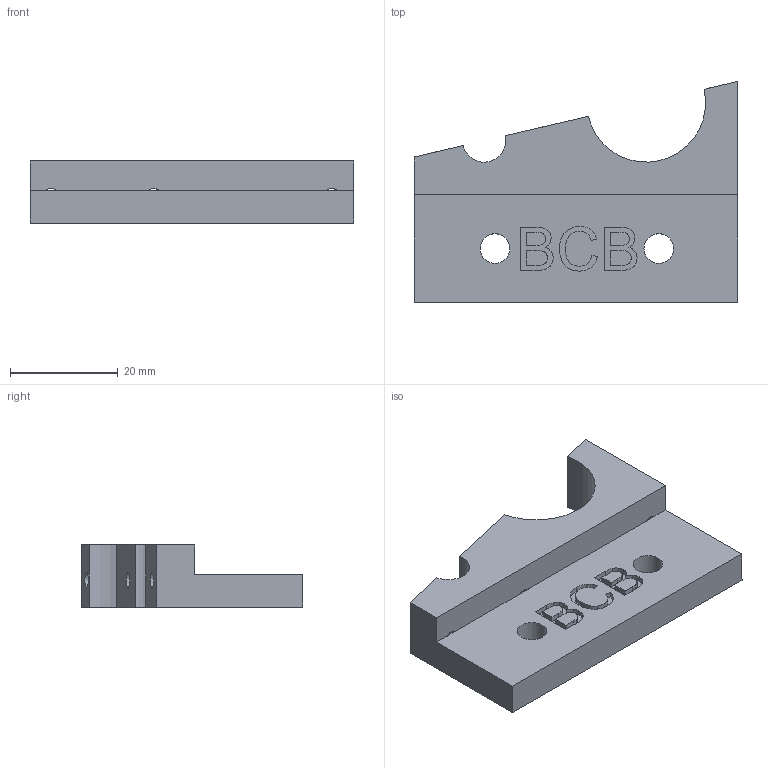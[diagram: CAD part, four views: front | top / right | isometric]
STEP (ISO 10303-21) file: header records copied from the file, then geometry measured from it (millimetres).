
FILE_DESCRIPTION(/* description */ (''),/* implementation_level */ '2;1');
FILE_NAME(/* name */ 'Z Frame Tie Back Center Bottom v3.step',/* time_stamp */ '2023-03-23T06:42:28-06:00',/* author */ (''),/* organization */ (''),/* preprocessor_version */ 'ST-DEVELOPER v19.2',/* originating_system */ 'Autodesk Translation Framework v11.17.0.187',/* authorisation */ '');
FILE_SCHEMA (('AUTOMOTIVE_DESIGN { 1 0 10303 214 3 1 1 }'));
Length unit declared in the file: millimetre
Products named in the file (2): Z Frame Tie Back Center Bottom; BC Bottom 1
Assembly tree (1 placements, depth 2):
  Z Frame Tie Back Center Bottom
    BC Bottom 1
Bounding box: 60 x 40.97 x 11.5 mm (x, y, z)
Volume: 13759.8 mm3; surface area: 6403.5 mm2
Topology: 1 solids, 1 shells, 115 faces, 321 edges, 212 vertices
Faces by surface type: bspline 68, plane 40, cylinder 7
Full cylindrical faces by diameter (mm): 2.8 x3, 5.5 x2
Entity records: 4387 total; most frequent: CARTESIAN_POINT 1807, ORIENTED_EDGE 642, EDGE_CURVE 321, DIRECTION 305, VERTEX_POINT 212, LINE 165, VECTOR 165, B_SPLINE_CURVE_WITH_KNOTS 136
